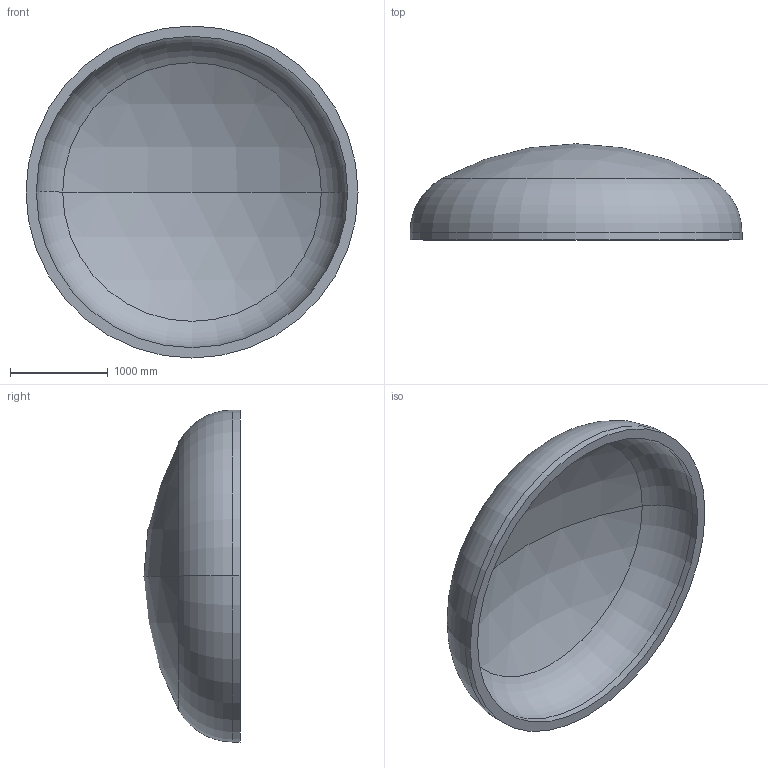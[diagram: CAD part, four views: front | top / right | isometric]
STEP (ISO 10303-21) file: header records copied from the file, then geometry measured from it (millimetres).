
FILE_DESCRIPTION (( 'STEP AP203' ), '1' );
FILE_NAME ('DIN 28013 Korbbogenform_-_Boden DIN 28013 - 3400 x 75 - I - s=106.step', '2016-07-01T19:54:28', ( '' ), ( '' ), 'SwSTEP 2.0', 'SolidWorks 2013', '' );
FILE_SCHEMA (( 'CONFIG_CONTROL_DESIGN' ));
Length unit declared in the file: millimetre
Products named in the file (1): DIN 28013 Korbbogenform_-_Boden DIN 28013 - 3400 x 75 - I - s=106
Bounding box: 3400 x 983.9 x 3400 mm (x, y, z)
Volume: 1362714438.5 mm3; surface area: 26832048.3 mm2
Topology: 1 solids, 1 shells, 13 faces, 24 edges, 14 vertices
Faces by surface type: torus 4, cylinder 4, sphere 4, plane 1
Entity records: 407 total; most frequent: DIRECTION 72, CARTESIAN_POINT 52, ORIENTED_EDGE 48, AXIS2_PLACEMENT_3D 34, EDGE_CURVE 24, CIRCLE 20, EDGE_LOOP 14, VERTEX_POINT 14
